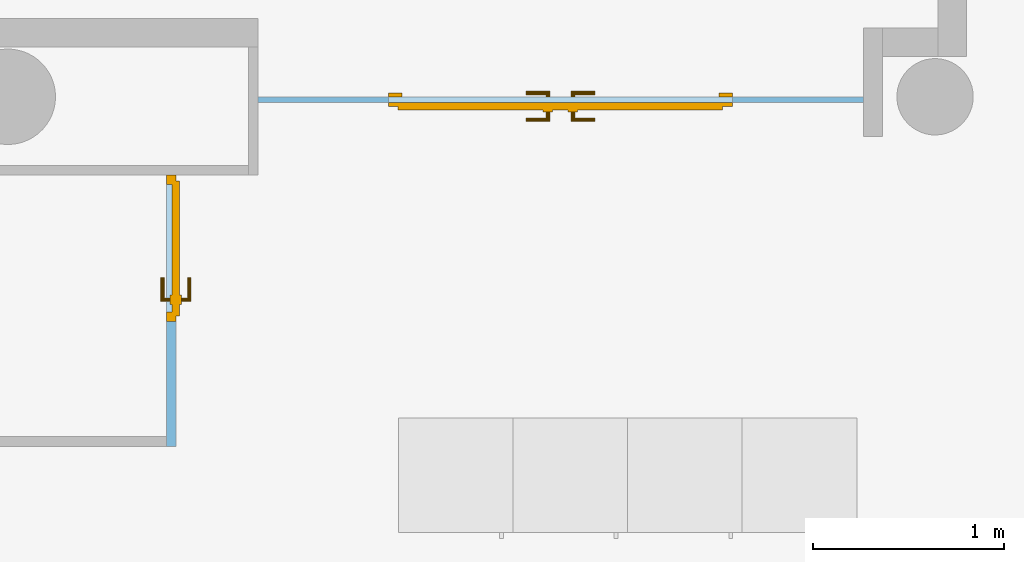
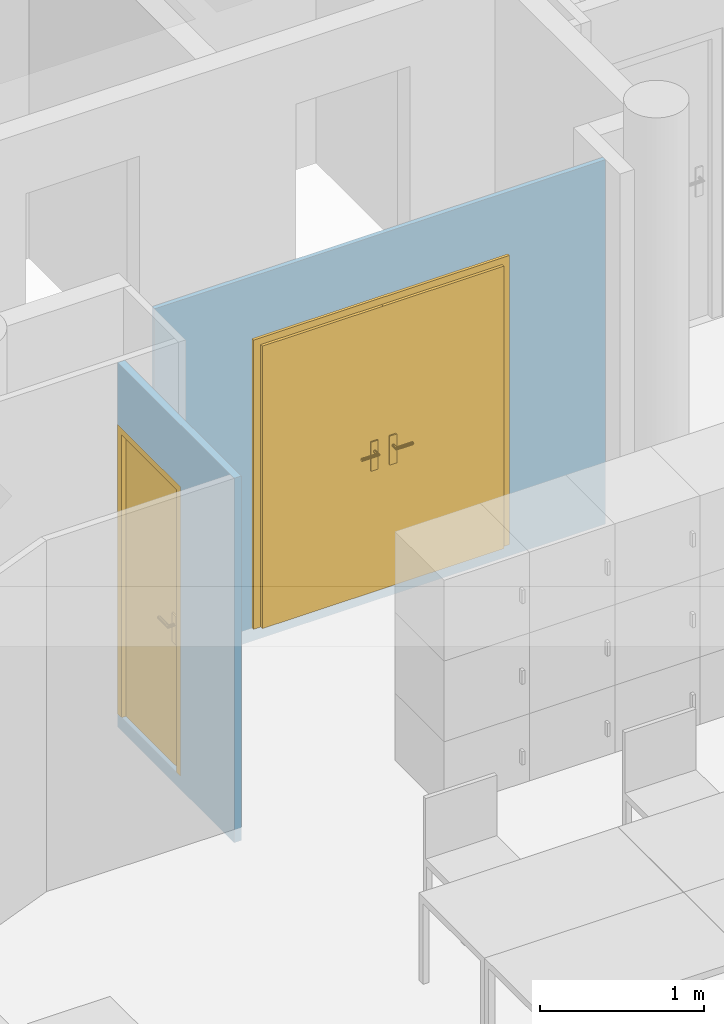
"""IFC4 building model written with IfcOpenShell, lengths in metres."""

from ifc_helpers import new_model, entity, si_unit, converted_unit, derived_unit, frame, frame_2d, origin, origin_with_axes, place, context, subcontext, project, spatial, polyline, rectangle, outline, extrude, faceted_brep, source, transform, mapped, material, layer, layer_set, layer_usage, element, fill, save


model = new_model("IFC4")

# Units and contexts
model_context = context("Model", 3, precision=1e-05, world=origin())
body_context = subcontext(model_context, "Body", "Model", "MODEL_VIEW")
ifc_project = project(units=[si_unit("LENGTHUNIT", "METRE"), si_unit("AREAUNIT", "SQUARE_METRE"), si_unit("VOLUMEUNIT", "CUBIC_METRE"), si_unit("MASSUNIT", "GRAM", prefix="KILO"), converted_unit("PLANEANGLEUNIT", "DEGREE", entity("IfcPlaneAngleMeasure", 0.0174532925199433), si_unit("PLANEANGLEUNIT", "RADIAN"), dimensions=[0, 0, 0, 0, 0, 0, 0]), derived_unit("THERMALTRANSMITTANCEUNIT", [(si_unit("POWERUNIT", "WATT"), 1), (si_unit("THERMODYNAMICTEMPERATUREUNIT", "KELVIN"), -1), (si_unit("LENGTHUNIT", "METRE"), -2)]), derived_unit("VOLUMETRICFLOWRATEUNIT", [(si_unit("LENGTHUNIT", "METRE"), 3), (converted_unit("TIMEUNIT", "hour", entity("IfcTimeMeasure", 3600.0), si_unit("TIMEUNIT", "SECOND"), dimensions=[0, 0, 1, 0, 0, 0, 0]), -1), (si_unit("LENGTHUNIT", "METRE"), -1)])], contexts=[model_context])

# Building, storeys
building_placement = place(None, origin())
building = spatial("IfcBuilding", under=ifc_project, at=building_placement, Name="HABITATGE PLURIFAMILIAR", CompositionType="ELEMENT")
storey_1_placement = place(building_placement, frame((0.0, 0.0, 15.28)))
storey_1 = spatial("IfcBuildingStorey", under=building, at=storey_1_placement, Name="PLANTA QUARTA", CompositionType="ELEMENT", Elevation=15.28)
storey_2_placement = place(storey_1_placement, frame((0.0, 0.0, 12.27)))
storey_2 = spatial("IfcBuildingStorey", under=storey_1, at=storey_2_placement, Name="NOU", CompositionType="PARTIAL")

# Wall, opening, door
ifc_material_1 = material()
ifc_layer_1 = layer(ifc_material_1, 0.03)
ifc_layer_set_1 = layer_set([ifc_layer_1])
ifc_layer_usage_1 = layer_usage(ifc_layer_set_1, "AXIS2", "POSITIVE", 0.0)
wall_1_placement = place(storey_2_placement, frame((420.616984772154, 23.8994598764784, -12.37), z_axis=(0.0, 0.0, 1.0), x_axis=(-1.0, 0.0, 0.0)))
wall_1 = element("IfcWall", 1, at=wall_1_placement, inside=storey_2, material=ifc_layer_usage_1, Name="Mampara P4", context=body_context, shape_type="SweptSolid", body=[
    extrude(rectangle(XDim=3.17000000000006, YDim=0.03, at=frame_2d((1.58500000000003, 0.015), x_axis=(1.0, 0.0))), origin_with_axes(), (0.0, 0.0, 1.0), 2.71),
])
opening_1_placement = place(wall_1_placement, frame((2.48586503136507, 0.03, 0.1), z_axis=(0.0, -1.0, 0.0), x_axis=(0.0, 0.0, 1.0)))
opening_1 = element("IfcOpeningElement", 2, at=opening_1_placement, cuts=wall_1, Name="Vano porta P4", ObjectType="Opening", context=body_context, shape_type="SweptSolid", body=[
    extrude(outline(polyline([(2.15, 1.79909702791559), (2.15, 0.0), (0.0, 0.0), (0.0, 1.79909702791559), (2.15, 1.79909702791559)])), origin_with_axes(), (0.0, 0.0, 1.0), 0.03),
])
shared_shape_1 = source(origin_with_axes(), body_context, "Body", "Brep", [
    faceted_brep([(1.79909702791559, 0.07, 2.15), (1.72909702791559, 0.07, 2.15), (1.72909702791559, 0.07, 0.0), (1.79909702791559, 0.07, 0.0), (1.79909702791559, 0.0, 0.0), (1.72909702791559, 0.0, 0.0), (1.72909702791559, 0.0, 2.15), (1.79909702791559, 0.0, 2.15)], [[[0, 1, 2, 3]], [[4, 5, 6, 7]], [[3, 4, 7, 0]], [[2, 5, 4, 3]], [[1, 6, 5, 2]], [[0, 7, 6, 1]]], orient=[[False], [False], [False], [False], [False], [False]]),
    faceted_brep([(0.0699999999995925, 0.07, 2.15), (0.0, 0.07, 2.15), (0.0, 0.07, 0.0), (0.0699999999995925, 0.07, 0.0), (0.0699999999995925, 0.0, 0.0), (0.0, 0.0, 0.0), (0.0, 0.0, 2.15), (0.0699999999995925, 0.0, 2.15)], [[[0, 1, 2, 3]], [[4, 5, 6, 7]], [[3, 4, 7, 0]], [[2, 5, 4, 3]], [[1, 6, 5, 2]], [[0, 7, 6, 1]]], orient=[[False], [False], [False], [False], [False], [False]]),
    faceted_brep([(1.72909702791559, 0.07, 2.15), (0.0699999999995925, 0.07, 2.15), (0.0699999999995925, 0.07, 2.08), (1.72909702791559, 0.07, 2.08), (1.72909702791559, 0.0, 2.08), (0.0699999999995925, 0.0, 2.08), (0.0699999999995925, 0.0, 2.15), (1.72909702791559, 0.0, 2.15)], [[[0, 1, 2, 3]], [[4, 5, 6, 7]], [[3, 4, 7, 0]], [[2, 5, 4, 3]], [[1, 6, 5, 2]], [[0, 7, 6, 1]]], orient=[[False], [False], [False], [False], [False], [False]]),
    faceted_brep([(1.74909702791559, 0.09, 2.1), (0.90004851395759, 0.09, 2.1), (0.90004851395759, 0.09, 0.0), (1.74909702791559, 0.09, 0.0), (1.74909702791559, 0.05, 0.0), (0.90004851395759, 0.05, 0.0), (0.90004851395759, 0.05, 2.1), (1.74909702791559, 0.05, 2.1)], [[[0, 1, 2, 3]], [[4, 5, 6, 7]], [[3, 4, 7, 0]], [[2, 5, 4, 3]], [[1, 6, 5, 2]], [[0, 7, 6, 1]]], orient=[[False], [False], [False], [False], [False], [False]]),
    faceted_brep([(0.93004851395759, 0.05, 2.08), (0.87004851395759, 0.05, 2.08), (0.87004851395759, 0.05, 0.0), (0.93004851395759, 0.05, 0.0), (0.93004851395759, 0.02, 0.0), (0.87004851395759, 0.02, 0.0), (0.87004851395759, 0.02, 2.08), (0.93004851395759, 0.02, 2.08)], [[[0, 1, 2, 3]], [[4, 5, 6, 7]], [[3, 4, 7, 0]], [[2, 5, 4, 3]], [[1, 6, 5, 2]], [[0, 7, 6, 1]]], orient=[[False], [False], [False], [False], [False], [False]]),
    faceted_brep([(0.99004851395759, 0.05, 1.125), (0.94004851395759, 0.05, 1.125), (0.94004851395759, 0.05, 0.91), (0.99004851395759, 0.05, 0.91), (0.99004851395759, 0.04, 0.91), (0.94004851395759, 0.04, 0.91), (0.94004851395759, 0.04, 1.125), (0.99004851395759, 0.04, 1.125)], [[[0, 1, 2, 3]], [[4, 5, 6, 7]], [[3, 4, 7, 0]], [[2, 5, 4, 3]], [[1, 6, 5, 2]], [[0, 7, 6, 1]]], orient=[[False], [False], [False], [False], [False], [False]]),
    faceted_brep([(0.96504851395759, 0.04, 1.06), (0.96004851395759, 0.04, 1.05866025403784), (0.956388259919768, 0.04, 1.055), (0.95504851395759, 0.04, 1.05), (0.956388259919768, 0.04, 1.045), (0.96004851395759, 0.04, 1.04133974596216), (0.96504851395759, 0.04, 1.04), (0.97004851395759, 0.04, 1.04133974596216), (0.973708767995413, 0.04, 1.045), (0.97504851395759, 0.04, 1.05), (0.973708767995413, 0.04, 1.055), (0.97004851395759, 0.04, 1.05866025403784), (0.96504851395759, 0.0, 1.06), (0.96004851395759, -0.005, 1.05866025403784), (0.956388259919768, -0.00866025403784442, 1.055), (0.95504851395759, -0.01, 1.05), (0.956388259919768, -0.00866025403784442, 1.045), (0.96004851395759, -0.005, 1.04133974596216), (0.96504851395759, 0.0, 1.04), (0.97004851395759, 0.005, 1.04133974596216), (0.973708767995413, 0.00866025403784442, 1.045), (0.97504851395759, 0.01, 1.05), (0.973708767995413, 0.00866025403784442, 1.055), (0.97004851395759, 0.005, 1.05866025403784), (1.08004851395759, 0.0, 1.06), (1.08004851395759, 0.005, 1.05866025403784), (1.08004851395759, 0.00866025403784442, 1.055), (1.08004851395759, 0.01, 1.05), (1.08004851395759, 0.00866025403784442, 1.045), (1.08004851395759, 0.005, 1.04133974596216), (1.08004851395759, 0.0, 1.04), (1.08004851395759, -0.005, 1.04133974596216), (1.08004851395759, -0.00866025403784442, 1.045), (1.08004851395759, -0.01, 1.05), (1.08004851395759, -0.00866025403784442, 1.055), (1.08004851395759, -0.005, 1.05866025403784)], [[[0, 1, 2, 3, 4, 5, 6, 7, 8, 9, 10, 11]], [[0, 12, 13, 1]], [[1, 13, 14, 2]], [[2, 14, 15, 3]], [[3, 15, 16, 4]], [[4, 16, 17, 5]], [[5, 17, 18, 6]], [[6, 18, 19, 7]], [[7, 19, 20, 8]], [[8, 20, 21, 9]], [[9, 21, 22, 10]], [[10, 22, 23, 11]], [[11, 23, 12, 0]], [[24, 25, 26, 27, 28, 29, 30, 31, 32, 33, 34, 35]], [[12, 24, 35, 13]], [[13, 35, 34, 14]], [[14, 34, 33, 15]], [[15, 33, 32, 16]], [[16, 32, 31, 17]], [[17, 31, 30, 18]], [[18, 30, 29, 19]], [[19, 29, 28, 20]], [[20, 28, 27, 21]], [[21, 27, 26, 22]], [[22, 26, 25, 23]], [[23, 25, 24, 12]]], orient=[[False], [False], [False], [False], [False], [False], [False], [False], [False], [False], [False], [False], [False], [False], [False], [False], [False], [False], [False], [False], [False], [False], [False], [False], [False], [False]]),
    faceted_brep([(0.99004851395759, 0.09, 1.125), (0.99004851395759, 0.09, 0.91), (0.94004851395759, 0.09, 0.91), (0.94004851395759, 0.09, 1.125), (0.99004851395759, 0.1, 0.91), (0.99004851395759, 0.1, 1.125), (0.94004851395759, 0.1, 1.125), (0.94004851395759, 0.1, 0.91)], [[[0, 1, 2, 3]], [[4, 5, 6, 7]], [[1, 0, 5, 4]], [[2, 1, 4, 7]], [[3, 2, 7, 6]], [[0, 3, 6, 5]]], orient=[[False], [False], [False], [False], [False], [False]]),
    faceted_brep([(0.96504851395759, 0.1, 1.06), (0.97004851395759, 0.1, 1.05866025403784), (0.973708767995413, 0.1, 1.055), (0.97504851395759, 0.1, 1.05), (0.973708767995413, 0.1, 1.045), (0.97004851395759, 0.1, 1.04133974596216), (0.96504851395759, 0.1, 1.04), (0.96004851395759, 0.1, 1.04133974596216), (0.956388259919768, 0.1, 1.045), (0.95504851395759, 0.1, 1.05), (0.956388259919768, 0.1, 1.055), (0.96004851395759, 0.1, 1.05866025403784), (0.96004851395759, 0.145, 1.05866025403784), (0.96504851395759, 0.14, 1.06), (0.956388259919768, 0.148660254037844, 1.055), (0.95504851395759, 0.15, 1.05), (0.956388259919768, 0.148660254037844, 1.045), (0.96004851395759, 0.145, 1.04133974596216), (0.96504851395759, 0.14, 1.04), (0.97004851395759, 0.135, 1.04133974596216), (0.973708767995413, 0.131339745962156, 1.045), (0.97504851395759, 0.13, 1.05), (0.973708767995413, 0.131339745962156, 1.055), (0.97004851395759, 0.135, 1.05866025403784), (1.08004851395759, 0.14, 1.06), (1.08004851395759, 0.145, 1.05866025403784), (1.08004851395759, 0.148660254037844, 1.055), (1.08004851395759, 0.15, 1.05), (1.08004851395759, 0.148660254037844, 1.045), (1.08004851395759, 0.145, 1.04133974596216), (1.08004851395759, 0.14, 1.04), (1.08004851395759, 0.135, 1.04133974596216), (1.08004851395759, 0.131339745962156, 1.045), (1.08004851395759, 0.13, 1.05), (1.08004851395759, 0.131339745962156, 1.055), (1.08004851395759, 0.135, 1.05866025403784)], [[[0, 1, 2, 3, 4, 5, 6, 7, 8, 9, 10, 11]], [[0, 11, 12, 13]], [[11, 10, 14, 12]], [[10, 9, 15, 14]], [[9, 8, 16, 15]], [[8, 7, 17, 16]], [[7, 6, 18, 17]], [[6, 5, 19, 18]], [[5, 4, 20, 19]], [[4, 3, 21, 20]], [[3, 2, 22, 21]], [[2, 1, 23, 22]], [[1, 0, 13, 23]], [[24, 25, 26, 27, 28, 29, 30, 31, 32, 33, 34, 35]], [[13, 12, 25, 24]], [[12, 14, 26, 25]], [[14, 15, 27, 26]], [[15, 16, 28, 27]], [[16, 17, 29, 28]], [[17, 18, 30, 29]], [[18, 19, 31, 30]], [[19, 20, 32, 31]], [[20, 21, 33, 32]], [[21, 22, 34, 33]], [[22, 23, 35, 34]], [[23, 13, 24, 35]]], orient=[[False], [False], [False], [False], [False], [False], [False], [False], [False], [False], [False], [False], [False], [False], [False], [False], [False], [False], [False], [False], [False], [False], [False], [False], [False], [False]]),
    faceted_brep([(0.89904851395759, 0.09, 2.1), (0.0499999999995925, 0.09, 2.1), (0.0499999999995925, 0.09, 0.0), (0.89904851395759, 0.09, 0.0), (0.89904851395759, 0.05, 0.0), (0.0499999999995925, 0.05, 0.0), (0.0499999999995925, 0.05, 2.1), (0.89904851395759, 0.05, 2.1)], [[[0, 1, 2, 3]], [[4, 5, 6, 7]], [[3, 4, 7, 0]], [[2, 5, 4, 3]], [[1, 6, 5, 2]], [[0, 7, 6, 1]]], orient=[[False], [False], [False], [False], [False], [False]]),
    faceted_brep([(0.85904851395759, 0.05, 1.125), (0.80904851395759, 0.05, 1.125), (0.80904851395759, 0.05, 0.91), (0.85904851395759, 0.05, 0.91), (0.85904851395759, 0.04, 0.91), (0.80904851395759, 0.04, 0.91), (0.80904851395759, 0.04, 1.125), (0.85904851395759, 0.04, 1.125)], [[[0, 1, 2, 3]], [[4, 5, 6, 7]], [[3, 4, 7, 0]], [[2, 5, 4, 3]], [[1, 6, 5, 2]], [[0, 7, 6, 1]]], orient=[[False], [False], [False], [False], [False], [False]]),
    faceted_brep([(0.83404851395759, 0.04, 1.06), (0.82904851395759, 0.04, 1.05866025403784), (0.825388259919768, 0.04, 1.055), (0.82404851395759, 0.04, 1.05), (0.825388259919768, 0.04, 1.045), (0.82904851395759, 0.04, 1.04133974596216), (0.83404851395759, 0.04, 1.04), (0.83904851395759, 0.04, 1.04133974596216), (0.842708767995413, 0.04, 1.045), (0.84404851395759, 0.04, 1.05), (0.842708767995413, 0.04, 1.055), (0.83904851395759, 0.04, 1.05866025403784), (0.83904851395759, -0.005, 1.05866025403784), (0.83404851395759, 0.0, 1.06), (0.842708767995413, -0.00866025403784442, 1.055), (0.84404851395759, -0.01, 1.05), (0.842708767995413, -0.00866025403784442, 1.045), (0.83904851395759, -0.005, 1.04133974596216), (0.83404851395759, 0.0, 1.04), (0.82904851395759, 0.005, 1.04133974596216), (0.825388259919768, 0.00866025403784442, 1.045), (0.82404851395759, 0.01, 1.05), (0.825388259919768, 0.00866025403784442, 1.055), (0.82904851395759, 0.005, 1.05866025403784), (0.71904851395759, 0.0, 1.06), (0.71904851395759, -0.005, 1.05866025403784), (0.71904851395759, -0.00866025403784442, 1.055), (0.71904851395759, -0.01, 1.05), (0.71904851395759, -0.00866025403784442, 1.045), (0.71904851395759, -0.005, 1.04133974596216), (0.71904851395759, 0.0, 1.04), (0.71904851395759, 0.005, 1.04133974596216), (0.71904851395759, 0.00866025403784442, 1.045), (0.71904851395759, 0.01, 1.05), (0.71904851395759, 0.00866025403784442, 1.055), (0.71904851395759, 0.005, 1.05866025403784)], [[[0, 1, 2, 3, 4, 5, 6, 7, 8, 9, 10, 11]], [[0, 11, 12, 13]], [[11, 10, 14, 12]], [[10, 9, 15, 14]], [[9, 8, 16, 15]], [[8, 7, 17, 16]], [[7, 6, 18, 17]], [[6, 5, 19, 18]], [[5, 4, 20, 19]], [[4, 3, 21, 20]], [[3, 2, 22, 21]], [[2, 1, 23, 22]], [[1, 0, 13, 23]], [[24, 25, 26, 27, 28, 29, 30, 31, 32, 33, 34, 35]], [[13, 12, 25, 24]], [[12, 14, 26, 25]], [[14, 15, 27, 26]], [[15, 16, 28, 27]], [[16, 17, 29, 28]], [[17, 18, 30, 29]], [[18, 19, 31, 30]], [[19, 20, 32, 31]], [[20, 21, 33, 32]], [[21, 22, 34, 33]], [[22, 23, 35, 34]], [[23, 13, 24, 35]]], orient=[[False], [False], [False], [False], [False], [False], [False], [False], [False], [False], [False], [False], [False], [False], [False], [False], [False], [False], [False], [False], [False], [False], [False], [False], [False], [False]]),
    faceted_brep([(0.85904851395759, 0.09, 1.125), (0.85904851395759, 0.09, 0.91), (0.80904851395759, 0.09, 0.91), (0.80904851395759, 0.09, 1.125), (0.85904851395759, 0.1, 0.91), (0.85904851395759, 0.1, 1.125), (0.80904851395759, 0.1, 1.125), (0.80904851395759, 0.1, 0.91)], [[[0, 1, 2, 3]], [[4, 5, 6, 7]], [[1, 0, 5, 4]], [[2, 1, 4, 7]], [[3, 2, 7, 6]], [[0, 3, 6, 5]]], orient=[[False], [False], [False], [False], [False], [False]]),
    faceted_brep([(0.83404851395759, 0.1, 1.06), (0.83904851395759, 0.1, 1.05866025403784), (0.842708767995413, 0.1, 1.055), (0.84404851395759, 0.1, 1.05), (0.842708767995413, 0.1, 1.045), (0.83904851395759, 0.1, 1.04133974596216), (0.83404851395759, 0.1, 1.04), (0.82904851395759, 0.1, 1.04133974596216), (0.825388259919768, 0.1, 1.045), (0.82404851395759, 0.1, 1.05), (0.825388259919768, 0.1, 1.055), (0.82904851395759, 0.1, 1.05866025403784), (0.83404851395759, 0.14, 1.06), (0.83904851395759, 0.145, 1.05866025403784), (0.842708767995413, 0.148660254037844, 1.055), (0.84404851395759, 0.15, 1.05), (0.842708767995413, 0.148660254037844, 1.045), (0.83904851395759, 0.145, 1.04133974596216), (0.83404851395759, 0.14, 1.04), (0.82904851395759, 0.135, 1.04133974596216), (0.825388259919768, 0.131339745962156, 1.045), (0.82404851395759, 0.13, 1.05), (0.825388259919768, 0.131339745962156, 1.055), (0.82904851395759, 0.135, 1.05866025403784), (0.71904851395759, 0.14, 1.06), (0.71904851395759, 0.135, 1.05866025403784), (0.71904851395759, 0.131339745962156, 1.055), (0.71904851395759, 0.13, 1.05), (0.71904851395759, 0.131339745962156, 1.045), (0.71904851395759, 0.135, 1.04133974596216), (0.71904851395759, 0.14, 1.04), (0.71904851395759, 0.145, 1.04133974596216), (0.71904851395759, 0.148660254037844, 1.045), (0.71904851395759, 0.15, 1.05), (0.71904851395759, 0.148660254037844, 1.055), (0.71904851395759, 0.145, 1.05866025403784)], [[[0, 1, 2, 3, 4, 5, 6, 7, 8, 9, 10, 11]], [[0, 12, 13, 1]], [[1, 13, 14, 2]], [[2, 14, 15, 3]], [[3, 15, 16, 4]], [[4, 16, 17, 5]], [[5, 17, 18, 6]], [[6, 18, 19, 7]], [[7, 19, 20, 8]], [[8, 20, 21, 9]], [[9, 21, 22, 10]], [[10, 22, 23, 11]], [[11, 23, 12, 0]], [[24, 25, 26, 27, 28, 29, 30, 31, 32, 33, 34, 35]], [[12, 24, 35, 13]], [[13, 35, 34, 14]], [[14, 34, 33, 15]], [[15, 33, 32, 16]], [[16, 32, 31, 17]], [[17, 31, 30, 18]], [[18, 30, 29, 19]], [[19, 29, 28, 20]], [[20, 28, 27, 21]], [[21, 27, 26, 22]], [[22, 26, 25, 23]], [[23, 25, 24, 12]]], orient=[[False], [False], [False], [False], [False], [False], [False], [False], [False], [False], [False], [False], [False], [False], [False], [False], [False], [False], [False], [False], [False], [False], [False], [False], [False], [False]]),
])
door_1_placement = place(opening_1_placement, frame((0.0, 1.79909702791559, 0.05), z_axis=(1.0, 0.0, 0.0), x_axis=(0.0, -1.0, 0.0)))
door_1 = element("IfcDoor", 3, at=door_1_placement, inside=storey_2, Name="Porta P4", OperationType="USERDEFINED", OverallHeight=2.15, OverallWidth=1.7991, PredefinedType="DOOR", context=body_context, shape_type="MappedRepresentation", body=[
    mapped(shared_shape_1, transform((0.0, 0.0, 0.0), x_axis=(1.0, 0.0, 0.0), y_axis=(0.0, 1.0, 0.0), z_axis=(0.0, 0.0, 1.0), scale=1.0)),
])
fill(opening_1, door_1)

ifc_material_2 = material()
ifc_layer_2 = layer(ifc_material_2, 0.05)
ifc_layer_set_2 = layer_set([ifc_layer_2])
ifc_layer_usage_2 = layer_usage(ifc_layer_set_2, "AXIS2", "POSITIVE", 0.0)
wall_2_placement = place(storey_2_placement, frame((417.016984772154, 22.0694598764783, -12.37), z_axis=(0.0, 0.0, 1.0), x_axis=(0.0, 1.0, 0.0)))
wall_2 = element("IfcWall", 4, at=wall_2_placement, inside=storey_2, material=ifc_layer_usage_2, Name="Mampara P4", context=body_context, shape_type="SweptSolid", body=[
    extrude(outline(polyline([(0.0, -0.05), (1.42, -0.05), (1.42, 0.0), (0.05, 0.0), (0.05, -0.00081139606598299), (0.0, -0.00081139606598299), (0.0, -0.05)])), frame((0.0, 0.05, 0.0), z_axis=(0.0, 0.0, 1.0), x_axis=(1.0, 0.0, 0.0)), (0.0, 0.0, 1.0), 2.71),
])
opening_2_placement = place(wall_2_placement, frame((1.42, 0.05, 0.1), z_axis=(0.0, -1.0, 0.0), x_axis=(0.0, 0.0, 1.0)))
opening_2 = element("IfcOpeningElement", 5, at=opening_2_placement, cuts=wall_2, Name="Vano porta P4", ObjectType="Opening", context=body_context, shape_type="SweptSolid", body=[
    extrude(outline(polyline([(2.15, 0.7675111), (2.15, 0.0), (0.0, 0.0), (0.0, 0.7675111), (2.15, 0.7675111)])), origin_with_axes(), (0.0, 0.0, 1.0), 0.05),
])
shared_shape_2 = source(origin_with_axes(), body_context, "Body", "Brep", [
    faceted_brep([(0.767511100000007, 0.0499999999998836, 2.15), (0.717511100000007, 0.0499999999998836, 2.15), (0.717511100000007, 0.0499999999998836, 0.0), (0.767511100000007, 0.0499999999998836, 0.0), (0.767511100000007, 0.0, 0.0), (0.717511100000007, 0.0, 0.0), (0.717511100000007, 0.0, 2.15), (0.767511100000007, 0.0, 2.15)], [[[0, 1, 2, 3]], [[4, 5, 6, 7]], [[3, 4, 7, 0]], [[2, 5, 4, 3]], [[1, 6, 5, 2]], [[0, 7, 6, 1]]], orient=[[False], [False], [False], [False], [False], [False]]),
    faceted_brep([(0.0499999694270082, 0.0499999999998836, 2.15), (-3.05729918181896e-08, 0.0499999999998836, 2.15), (-3.05729918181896e-08, 0.0499999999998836, 0.0), (0.0499999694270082, 0.0499999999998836, 0.0), (0.0499999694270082, 0.0, 0.0), (-3.05729918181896e-08, 0.0, 0.0), (-3.05729918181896e-08, 0.0, 2.15), (0.0499999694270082, 0.0, 2.15)], [[[0, 1, 2, 3]], [[4, 5, 6, 7]], [[3, 4, 7, 0]], [[2, 5, 4, 3]], [[1, 6, 5, 2]], [[0, 7, 6, 1]]], orient=[[False], [False], [False], [False], [False], [False]]),
    faceted_brep([(0.717511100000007, 0.0499999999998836, 2.15), (0.0499999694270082, 0.0499999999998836, 2.15), (0.0499999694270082, 0.0499999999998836, 2.1), (0.717511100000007, 0.0499999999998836, 2.1), (0.717511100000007, 0.0, 2.1), (0.0499999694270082, 0.0, 2.1), (0.0499999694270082, 0.0, 2.15), (0.717511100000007, 0.0, 2.15)], [[[0, 1, 2, 3]], [[4, 5, 6, 7]], [[3, 4, 7, 0]], [[2, 5, 4, 3]], [[1, 6, 5, 2]], [[0, 7, 6, 1]]], orient=[[False], [False], [False], [False], [False], [False]]),
    faceted_brep([(0.737511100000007, 0.0699999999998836, 2.12), (0.0299999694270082, 0.0699999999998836, 2.12), (0.0299999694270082, 0.0699999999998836, 0.0), (0.737511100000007, 0.0699999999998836, 0.0), (0.737511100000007, 0.0299999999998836, 0.0), (0.0299999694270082, 0.0299999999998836, 0.0), (0.0299999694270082, 0.0299999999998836, 2.12), (0.737511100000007, 0.0299999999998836, 2.12)], [[[0, 1, 2, 3]], [[4, 5, 6, 7]], [[3, 4, 7, 0]], [[2, 5, 4, 3]], [[1, 6, 5, 2]], [[0, 7, 6, 1]]], orient=[[False], [False], [False], [False], [False], [False]]),
    faceted_brep([(0.677511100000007, 0.0299999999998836, 1.125), (0.627511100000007, 0.0299999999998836, 1.125), (0.627511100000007, 0.0299999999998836, 0.91), (0.677511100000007, 0.0299999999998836, 0.91), (0.677511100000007, 0.0199999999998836, 0.91), (0.627511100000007, 0.0199999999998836, 0.91), (0.627511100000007, 0.0199999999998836, 1.125), (0.677511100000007, 0.0199999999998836, 1.125)], [[[0, 1, 2, 3]], [[4, 5, 6, 7]], [[3, 4, 7, 0]], [[2, 5, 4, 3]], [[1, 6, 5, 2]], [[0, 7, 6, 1]]], orient=[[False], [False], [False], [False], [False], [False]]),
    faceted_brep([(0.652511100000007, 0.0199999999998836, 1.06), (0.647511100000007, 0.0199999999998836, 1.05866025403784), (0.643850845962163, 0.0199999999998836, 1.055), (0.642511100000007, 0.0199999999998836, 1.05), (0.643850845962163, 0.0199999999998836, 1.045), (0.647511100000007, 0.0199999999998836, 1.04133974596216), (0.652511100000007, 0.0199999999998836, 1.04), (0.657511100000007, 0.0199999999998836, 1.04133974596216), (0.661171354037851, 0.0199999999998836, 1.045), (0.662511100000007, 0.0199999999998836, 1.05), (0.661171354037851, 0.0199999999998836, 1.055), (0.657511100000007, 0.0199999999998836, 1.05866025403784), (0.657511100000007, -0.0250000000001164, 1.05866025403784), (0.652511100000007, -0.0200000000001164, 1.06), (0.661171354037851, -0.028660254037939, 1.055), (0.662511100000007, -0.0300000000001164, 1.05), (0.661171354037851, -0.028660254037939, 1.045), (0.657511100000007, -0.0250000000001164, 1.04133974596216), (0.652511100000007, -0.0200000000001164, 1.04), (0.647511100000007, -0.0150000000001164, 1.04133974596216), (0.643850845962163, -0.0113397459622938, 1.045), (0.642511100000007, -0.0100000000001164, 1.05), (0.643850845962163, -0.0113397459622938, 1.055), (0.647511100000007, -0.0150000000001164, 1.05866025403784), (0.537511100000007, -0.0200000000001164, 1.06), (0.537511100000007, -0.0250000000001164, 1.05866025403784), (0.537511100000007, -0.028660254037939, 1.055), (0.537511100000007, -0.0300000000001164, 1.05), (0.537511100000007, -0.028660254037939, 1.045), (0.537511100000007, -0.0250000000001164, 1.04133974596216), (0.537511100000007, -0.0200000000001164, 1.04), (0.537511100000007, -0.0150000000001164, 1.04133974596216), (0.537511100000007, -0.0113397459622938, 1.045), (0.537511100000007, -0.0100000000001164, 1.05), (0.537511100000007, -0.0113397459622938, 1.055), (0.537511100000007, -0.0150000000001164, 1.05866025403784)], [[[0, 1, 2, 3, 4, 5, 6, 7, 8, 9, 10, 11]], [[0, 11, 12, 13]], [[11, 10, 14, 12]], [[10, 9, 15, 14]], [[9, 8, 16, 15]], [[8, 7, 17, 16]], [[7, 6, 18, 17]], [[6, 5, 19, 18]], [[5, 4, 20, 19]], [[4, 3, 21, 20]], [[3, 2, 22, 21]], [[2, 1, 23, 22]], [[1, 0, 13, 23]], [[24, 25, 26, 27, 28, 29, 30, 31, 32, 33, 34, 35]], [[13, 12, 25, 24]], [[12, 14, 26, 25]], [[14, 15, 27, 26]], [[15, 16, 28, 27]], [[16, 17, 29, 28]], [[17, 18, 30, 29]], [[18, 19, 31, 30]], [[19, 20, 32, 31]], [[20, 21, 33, 32]], [[21, 22, 34, 33]], [[22, 23, 35, 34]], [[23, 13, 24, 35]]], orient=[[False], [False], [False], [False], [False], [False], [False], [False], [False], [False], [False], [False], [False], [False], [False], [False], [False], [False], [False], [False], [False], [False], [False], [False], [False], [False]]),
    faceted_brep([(0.677511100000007, 0.0699999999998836, 1.125), (0.677511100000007, 0.0699999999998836, 0.91), (0.627511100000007, 0.0699999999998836, 0.91), (0.627511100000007, 0.0699999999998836, 1.125), (0.677511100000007, 0.0799999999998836, 0.91), (0.677511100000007, 0.0799999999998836, 1.125), (0.627511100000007, 0.0799999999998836, 1.125), (0.627511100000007, 0.0799999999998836, 0.91)], [[[0, 1, 2, 3]], [[4, 5, 6, 7]], [[1, 0, 5, 4]], [[2, 1, 4, 7]], [[3, 2, 7, 6]], [[0, 3, 6, 5]]], orient=[[False], [False], [False], [False], [False], [False]]),
    faceted_brep([(0.652511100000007, 0.0799999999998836, 1.06), (0.657511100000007, 0.0799999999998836, 1.05866025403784), (0.661171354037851, 0.0799999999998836, 1.055), (0.662511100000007, 0.0799999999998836, 1.05), (0.661171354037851, 0.0799999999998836, 1.045), (0.657511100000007, 0.0799999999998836, 1.04133974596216), (0.652511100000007, 0.0799999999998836, 1.04), (0.647511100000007, 0.0799999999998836, 1.04133974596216), (0.643850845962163, 0.0799999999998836, 1.045), (0.642511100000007, 0.0799999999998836, 1.05), (0.643850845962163, 0.0799999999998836, 1.055), (0.647511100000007, 0.0799999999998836, 1.05866025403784), (0.652511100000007, 0.119999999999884, 1.06), (0.657511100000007, 0.124999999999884, 1.05866025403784), (0.661171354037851, 0.128660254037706, 1.055), (0.662511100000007, 0.129999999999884, 1.05), (0.661171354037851, 0.128660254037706, 1.045), (0.657511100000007, 0.124999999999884, 1.04133974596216), (0.652511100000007, 0.119999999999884, 1.04), (0.647511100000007, 0.114999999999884, 1.04133974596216), (0.643850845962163, 0.111339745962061, 1.045), (0.642511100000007, 0.109999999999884, 1.05), (0.643850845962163, 0.111339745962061, 1.055), (0.647511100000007, 0.114999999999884, 1.05866025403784), (0.537511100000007, 0.119999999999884, 1.06), (0.537511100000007, 0.114999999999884, 1.05866025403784), (0.537511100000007, 0.111339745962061, 1.055), (0.537511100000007, 0.109999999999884, 1.05), (0.537511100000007, 0.111339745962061, 1.045), (0.537511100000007, 0.114999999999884, 1.04133974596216), (0.537511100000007, 0.119999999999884, 1.04), (0.537511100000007, 0.124999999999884, 1.04133974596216), (0.537511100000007, 0.128660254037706, 1.045), (0.537511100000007, 0.129999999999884, 1.05), (0.537511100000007, 0.128660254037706, 1.055), (0.537511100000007, 0.124999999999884, 1.05866025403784)], [[[0, 1, 2, 3, 4, 5, 6, 7, 8, 9, 10, 11]], [[0, 12, 13, 1]], [[1, 13, 14, 2]], [[2, 14, 15, 3]], [[3, 15, 16, 4]], [[4, 16, 17, 5]], [[5, 17, 18, 6]], [[6, 18, 19, 7]], [[7, 19, 20, 8]], [[8, 20, 21, 9]], [[9, 21, 22, 10]], [[10, 22, 23, 11]], [[11, 23, 12, 0]], [[24, 25, 26, 27, 28, 29, 30, 31, 32, 33, 34, 35]], [[12, 24, 35, 13]], [[13, 35, 34, 14]], [[14, 34, 33, 15]], [[15, 33, 32, 16]], [[16, 32, 31, 17]], [[17, 31, 30, 18]], [[18, 30, 29, 19]], [[19, 29, 28, 20]], [[20, 28, 27, 21]], [[21, 27, 26, 22]], [[22, 26, 25, 23]], [[23, 25, 24, 12]]], orient=[[False], [False], [False], [False], [False], [False], [False], [False], [False], [False], [False], [False], [False], [False], [False], [False], [False], [False], [False], [False], [False], [False], [False], [False], [False], [False]]),
])
door_2_placement = place(opening_2_placement, frame((0.0, 0.0, 0.0), z_axis=(1.0, 0.0, 0.0), x_axis=(0.0, 1.0, 0.0)))
door_2 = element("IfcDoor", 6, at=door_2_placement, inside=storey_2, Name="Porta P4", OperationType="USERDEFINED", OverallHeight=2.15, OverallWidth=0.76751, PredefinedType="DOOR", context=body_context, shape_type="MappedRepresentation", body=[
    mapped(shared_shape_2, transform((0.0, 0.0, 0.0), x_axis=(1.0, 0.0, 0.0), y_axis=(0.0, 1.0, 0.0), z_axis=(0.0, 0.0, 1.0), scale=1.0)),
])
fill(opening_2, door_2)

save(model, "model.ifc")
